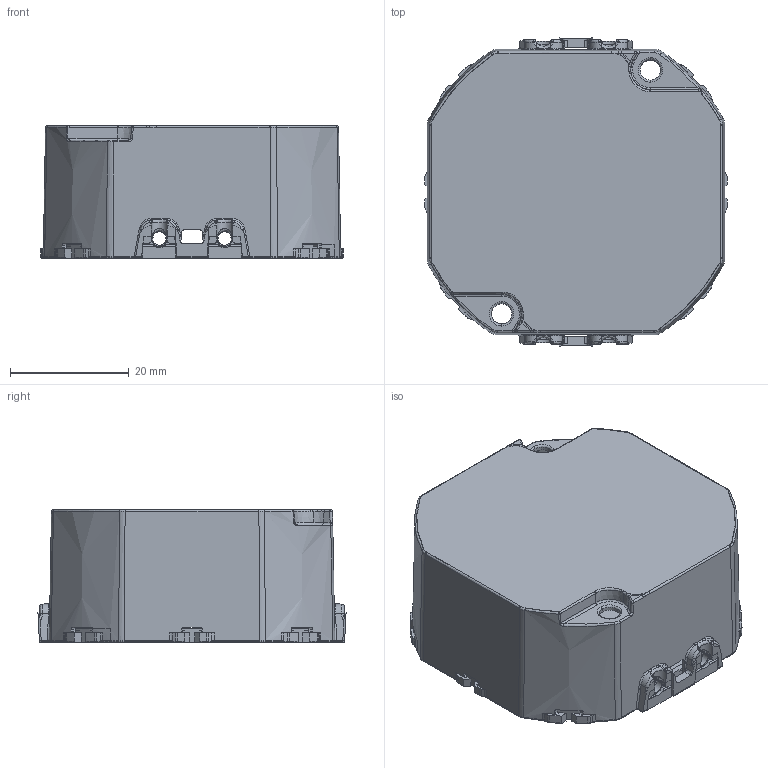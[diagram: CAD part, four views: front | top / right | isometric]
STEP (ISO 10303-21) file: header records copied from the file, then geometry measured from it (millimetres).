
FILE_DESCRIPTION (( 'STEP AP203' ), '1' );
FILE_NAME ('ASSIEME OT6-20-03-08.STEP', '2008-03-20T16:03:42', ( 'Daniele Nascimben' ), ( 'Osram-spa' ), 'SwSTEP 2.0', 'SolidWorks 2007', '' );
FILE_SCHEMA (( 'CONFIG_CONTROL_DESIGN' ));
Length unit declared in the file: millimetre
Products named in the file (1): ASSIEME OT6-20-03-08
Bounding box: 50.8 x 51.79 x 22.29 mm (x, y, z)
Surface area: 15805.9 mm2 (no closed solid volume)
Topology: 0 solids, 8 shells, 839 faces, 2844 edges, 1910 vertices
Faces by surface type: bspline 300, plane 257, cylinder 238, cone 44
Entity records: 48315 total; most frequent: CARTESIAN_POINT 27610, ORIENTED_EDGE 5019, DIRECTION 2850, EDGE_CURVE 2832, VERTEX_POINT 1910, B_SPLINE_CURVE_WITH_KNOTS 1276, VECTOR 1140, LINE 1140
